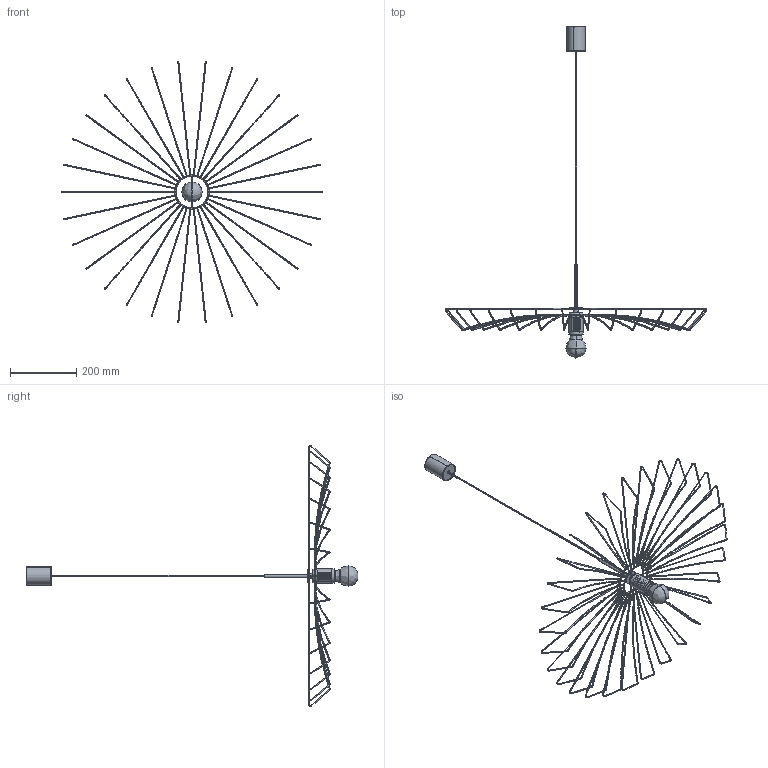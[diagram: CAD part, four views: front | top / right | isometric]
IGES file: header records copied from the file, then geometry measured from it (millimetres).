
Start section: SolidWorks IGES file using analytic representation for surfaces
Global section: file name: C:\Users\DELL\Desktop\Nowy folder\Umbrella\Umbrella ca³a lampa.IGS; native system: SolidWorks 2017; preprocessor: SolidWorks 2017; author: DELL; date: 191202.220706; units: millimetre
Bounding box: 790.86 x 1002.34 x 786.53 mm (x, y, z)
Surface area: 348308 mm2 (no closed solid volume)
Topology: 0 solids, 0 shells, 652 faces, 11299 edges, 11279 vertices
Faces by surface type: bspline 378, revolution 274
